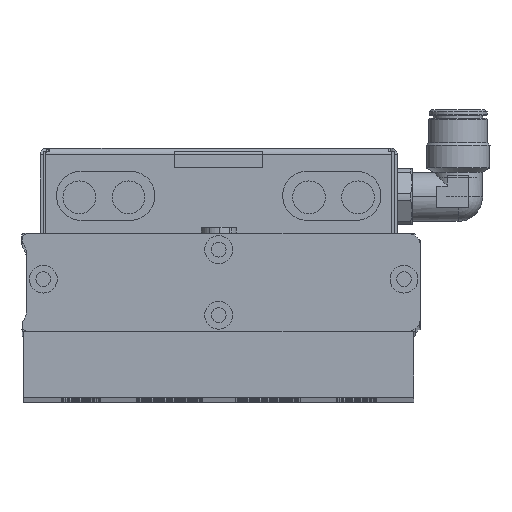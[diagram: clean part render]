
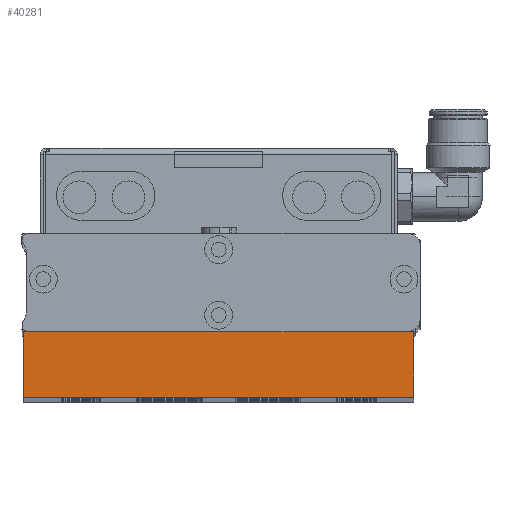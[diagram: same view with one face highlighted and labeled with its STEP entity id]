
A CAD part, top view. The second image highlights one B-rep face of the part: STEP entity #40281.
In plain terms, the highlighted planar face has unit normal (0, 0, 1).
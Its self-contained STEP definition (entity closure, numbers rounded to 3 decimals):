
#815 = EDGE_LOOP ( 'NONE', ( #28073, #14982, #9132, #5431 ) ) ;
#5431 = ORIENTED_EDGE ( 'NONE', *, *, #37898, .T. ) ;
#8811 = VECTOR ( 'NONE', #10722, 1000. ) ;
#8994 = CARTESIAN_POINT ( 'NONE',  ( 36.4, -51.3, 427. ) ) ;
#9132 = ORIENTED_EDGE ( 'NONE', *, *, #37282, .F. ) ;
#9276 = DIRECTION ( 'NONE',  ( 0., 1., 0. ) ) ;
#9681 = VERTEX_POINT ( 'NONE', #39187 ) ;
#9811 = LINE ( 'NONE', #17129, #8811 ) ;
#10722 = DIRECTION ( 'NONE',  ( 0., -1., 0. ) ) ;
#10880 = DIRECTION ( 'NONE',  ( 1., 0., 0. ) ) ;
#12417 = DIRECTION ( 'NONE',  ( 0., -1., 0. ) ) ;
#13207 = VERTEX_POINT ( 'NONE', #27234 ) ;
#13515 = VECTOR ( 'NONE', #15343, 1000. ) ;
#13702 = LINE ( 'NONE', #20352, #35461 ) ;
#14982 = ORIENTED_EDGE ( 'NONE', *, *, #27242, .F. ) ;
#15343 = DIRECTION ( 'NONE',  ( 1., 0., 0. ) ) ;
#17097 = EDGE_CURVE ( 'NONE', #33544, #13207, #13702, .T. ) ;
#17129 = CARTESIAN_POINT ( 'NONE',  ( -82.6, -51.3, 427. ) ) ;
#17481 = VERTEX_POINT ( 'NONE', #20118 ) ;
#17710 = LINE ( 'NONE', #8994, #24238 ) ;
#18380 = PLANE ( 'NONE',  #30654 ) ;
#20118 = CARTESIAN_POINT ( 'NONE',  ( -82.6, -51.3, 427. ) ) ;
#20352 = CARTESIAN_POINT ( 'NONE',  ( 36.4, -71.3, 427. ) ) ;
#24238 = VECTOR ( 'NONE', #12417, 1000. ) ;
#27234 = CARTESIAN_POINT ( 'NONE',  ( 36.4, -71.3, 427. ) ) ;
#27242 = EDGE_CURVE ( 'NONE', #9681, #13207, #17710, .T. ) ;
#28073 = ORIENTED_EDGE ( 'NONE', *, *, #17097, .T. ) ;
#30654 = AXIS2_PLACEMENT_3D ( 'NONE', #34895, #37974, #9276 ) ;
#30732 = LINE ( 'NONE', #31889, #13515 ) ;
#31889 = CARTESIAN_POINT ( 'NONE',  ( 36.4, -51.3, 427. ) ) ;
#32645 = FACE_OUTER_BOUND ( 'NONE', #815, .T. ) ;
#33544 = VERTEX_POINT ( 'NONE', #41184 ) ;
#34895 = CARTESIAN_POINT ( 'NONE',  ( -82.6, -51.3, 427. ) ) ;
#35461 = VECTOR ( 'NONE', #10880, 1000. ) ;
#37282 = EDGE_CURVE ( 'NONE', #17481, #9681, #30732, .T. ) ;
#37898 = EDGE_CURVE ( 'NONE', #17481, #33544, #9811, .T. ) ;
#37974 = DIRECTION ( 'NONE',  ( 0., 0., -1. ) ) ;
#39187 = CARTESIAN_POINT ( 'NONE',  ( 36.4, -51.3, 427. ) ) ;
#40281 = ADVANCED_FACE ( 'NONE', ( #32645 ), #18380, .F. ) ;
#41184 = CARTESIAN_POINT ( 'NONE',  ( -82.6, -71.3, 427. ) ) ;
